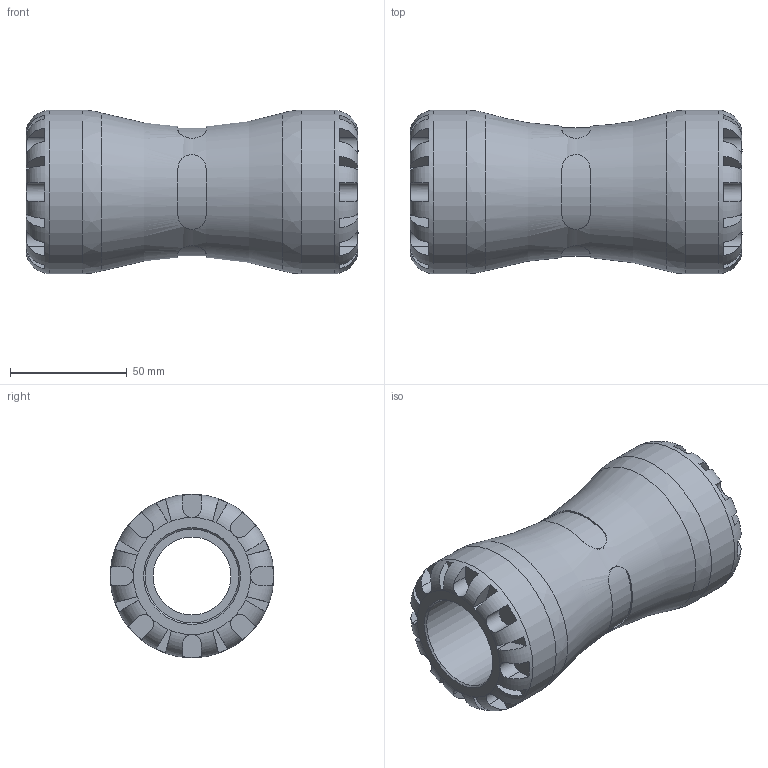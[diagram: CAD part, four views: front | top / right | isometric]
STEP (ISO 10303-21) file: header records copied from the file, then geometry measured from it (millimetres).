
FILE_DESCRIPTION(/* description */ ('PLASSON COUPLER 40X40 SERIES 1'),/* implementation_level */ '2;1');
FILE_NAME(/* name */ 'C:\Dropbox\KIMPROJECTS-Inventor\99-16-3568-Processing\1001\100100040_190100040.ipt.stp',/* time_stamp */ '2017-01-17T10:59:12+02:00',/* author */ ('KIM'),/* organization */ (''),/* preprocessor_version */ 'ST-DEVELOPER v15.6',/* originating_system */ 'Autodesk Inventor 2015',/* authorisation */ '');
FILE_SCHEMA (('AUTOMOTIVE_DESIGN { 1 0 10303 214 3 1 1 }'));
Length unit declared in the file: millimetre
Products named in the file (1): 100100040_190100040
Bounding box: 142 x 70 x 70 mm (x, y, z)
Volume: 268695.4 mm3; surface area: 54612.7 mm2
Topology: 1 solids, 1 shells, 164 faces, 419 edges, 262 vertices
Faces by surface type: plane 108, cylinder 49, torus 3, cone 2, bspline 2
Full cylindrical faces by diameter (mm): 33.333 x1, 40 x2, 70 x2
Entity records: 6424 total; most frequent: CARTESIAN_POINT 2455, ORIENTED_EDGE 808, DIRECTION 762, EDGE_CURVE 404, AXIS2_PLACEMENT_3D 309, VERTEX_POINT 258, EDGE_LOOP 182, STYLED_ITEM 165
